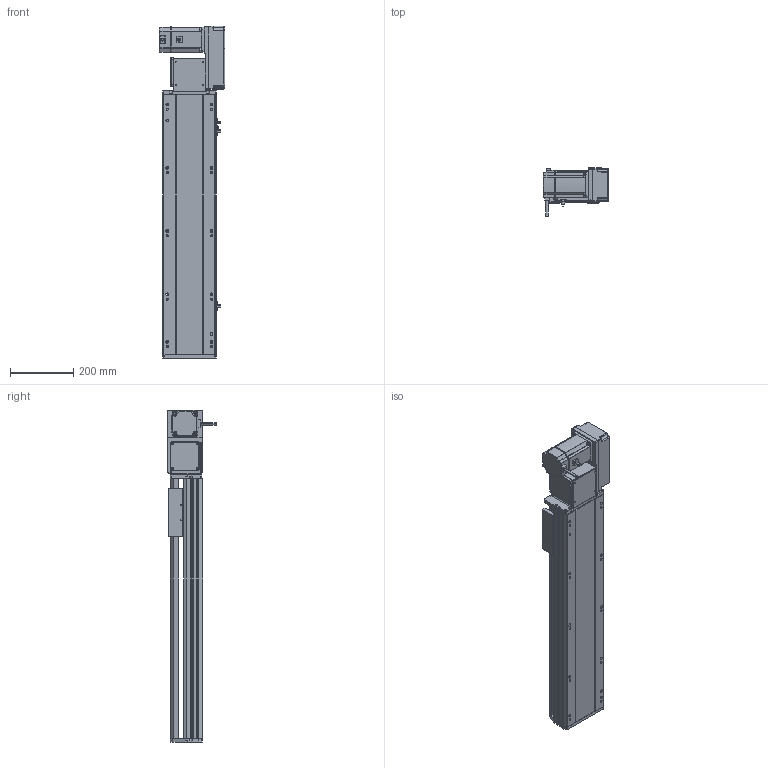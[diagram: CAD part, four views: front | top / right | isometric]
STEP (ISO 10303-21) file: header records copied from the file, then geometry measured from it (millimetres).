
FILE_DESCRIPTION (( 'STEP AP214' ), '1' );
FILE_NAME ('RTB17S-XX-550-R-M75-C4.STEP', '2025-12-12T01:30:59', ( '' ), ( '' ), 'SwSTEP 2.0', 'SolidWorks 2018', '' );
FILE_SCHEMA (( 'AUTOMOTIVE_DESIGN' ));
Length unit declared in the file: millimetre
Products named in the file (15): RTB22S-GY-017P^RTB17S-R-々湍釱蚾饜-750W_RTB17S-XX-XX-R-M75-C4; RTB22S-GY-018P^RTB17S-R-々湍釱蚾饜-750W_RTB17S-XX-XX-R-M75-C4; RTB17S-L-001-耜醱啣^RTB17S-XX-XX-R-M75-C4; RTB17S-L-014-T20-P75--々湍釱^RTB17S-R-々湍釱蚾饜-750W_RTB17S-XX-XX-R-M75-C4; RTB17-R-011菁釱^RTB17S-XX-XX-R-M75-C4; RTB17S-R-々湍釱蚾饜-750W^RTB17S-XX-XX-R-M75-C4; EE672^RTB17S-XX-XX-R-M75-C4; RTB17S-XX-550-R-M75-C4; RTB17S-L-007奻裔^RTB17S-XX-XX-R-M75-C4; RTH13-BL-012覜茼え俋离^RTB17S-賑釱_RTB17S-XX-XX-R-M75-C4; RTB22S-GY-005P^RTB17S-R-々湍釱蚾饜-750W_RTB17S-XX-XX-R-M75-C4; RTB17S-L-004-賑釱^RTB17S-賑釱_RTB17S-XX-XX-R-M75-C4; 750W萇儂^RTB17S-XX-XX-R-M75-C4; RTB22S-GY-008-M75--萇儂啣^RTB17S-R-々湍釱蚾饜-750W_RTB17S-XX-XX-R-M75-C4; RTB17S-賑釱^RTB17S-XX-XX-R-M75-C4
Assembly tree (17 placements, depth 3):
  RTB17S-XX-550-R-M75-C4
    RTB17-R-011菁釱^RTB17S-XX-XX-R-M75-C4
    EE672^RTB17S-XX-XX-R-M75-C4  x3
    RTB17S-L-001-耜醱啣^RTB17S-XX-XX-R-M75-C4
    RTB17S-賑釱^RTB17S-XX-XX-R-M75-C4
      RTB17S-L-004-賑釱^RTB17S-賑釱_RTB17S-XX-XX-R-M75-C4
      RTH13-BL-012覜茼え俋离^RTB17S-賑釱_RTB17S-XX-XX-R-M75-C4
    RTB17S-L-007奻裔^RTB17S-XX-XX-R-M75-C4
    750W萇儂^RTB17S-XX-XX-R-M75-C4
    RTB17S-R-々湍釱蚾饜-750W^RTB17S-XX-XX-R-M75-C4
      RTB17S-L-014-T20-P75--々湍釱^RTB17S-R-々湍釱蚾饜-750W_RTB17S-XX-XX-R-M75-C4
      RTB22S-GY-005P^RTB17S-R-々湍釱蚾饜-750W_RTB17S-XX-XX-R-M75-C4
      RTB22S-GY-017P^RTB17S-R-々湍釱蚾饜-750W_RTB17S-XX-XX-R-M75-C4  x2
      RTB22S-GY-008-M75--萇儂啣^RTB17S-R-々湍釱蚾饜-750W_RTB17S-XX-XX-R-M75-C4
      RTB22S-GY-018P^RTB17S-R-々湍釱蚾饜-750W_RTB17S-XX-XX-R-M75-C4
Bounding box: 207.4 x 152.7 x 1049 mm (x, y, z)
Volume: 9388117.6 mm3; surface area: 1518170.9 mm2
Topology: 17 solids, 17 shells, 2057 faces, 5674 edges, 3662 vertices
Faces by surface type: plane 966, cylinder 675, bspline 294, cone 110, sphere 8, torus 4
Entity records: 56566 total; most frequent: CARTESIAN_POINT 16538, ORIENTED_EDGE 8192, DIRECTION 7682, EDGE_CURVE 4096, AXIS2_PLACEMENT_3D 2682, VERTEX_POINT 2666, VECTOR 2318, LINE 2318
